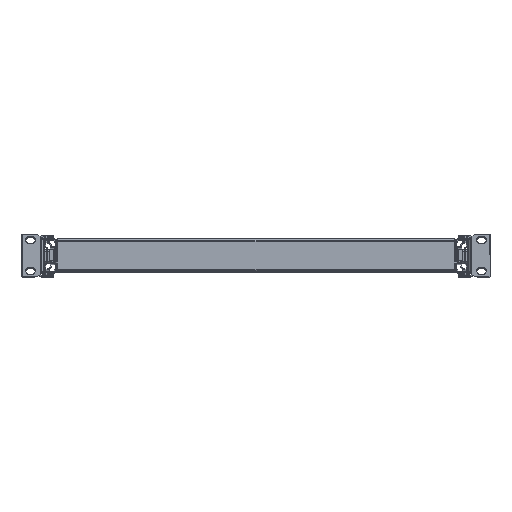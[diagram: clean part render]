
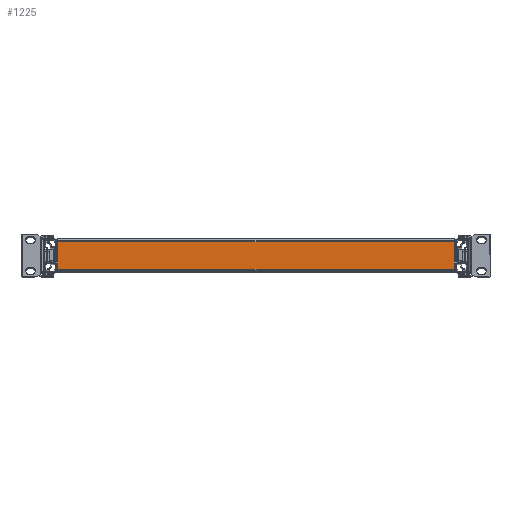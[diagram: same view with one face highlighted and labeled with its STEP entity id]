
A CAD part, top view. The second image highlights one B-rep face of the part: STEP entity #1225.
In plain terms, the highlighted planar face has unit normal (0, 0, 1).
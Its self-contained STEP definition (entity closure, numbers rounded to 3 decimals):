
#1225 = ADVANCED_FACE ( 'NONE', ( #24108 ), #20720, .T. ) ;
#1254 = CARTESIAN_POINT ( 'NONE',  ( -204.3, -29.7, 275. ) ) ;
#7952 = VECTOR ( 'NONE', #30875, 1000. ) ;
#10141 = LINE ( 'NONE', #26133, #7952 ) ;
#11281 = DIRECTION ( 'NONE',  ( 0., -1., 0. ) ) ;
#11847 = LINE ( 'NONE', #17392, #44837 ) ;
#12706 = CARTESIAN_POINT ( 'NONE',  ( 204.3, -29.7, 275. ) ) ;
#13774 = CARTESIAN_POINT ( 'NONE',  ( -204.3, -1.5, 275. ) ) ;
#14572 = ORIENTED_EDGE ( 'NONE', *, *, #59097, .T. ) ;
#16132 = VERTEX_POINT ( 'NONE', #17555 ) ;
#16532 = EDGE_LOOP ( 'NONE', ( #51470, #21832, #49724, #14572 ) ) ;
#17392 = CARTESIAN_POINT ( 'NONE',  ( 204.3, -32.6, 275. ) ) ;
#17488 = EDGE_CURVE ( 'NONE', #55987, #52723, #56776, .T. ) ;
#17555 = CARTESIAN_POINT ( 'NONE',  ( 204.3, -1.5, 275. ) ) ;
#20691 = CARTESIAN_POINT ( 'NONE',  ( -204.3, -1.5, 275. ) ) ;
#20720 = PLANE ( 'NONE',  #58296 ) ;
#21832 = ORIENTED_EDGE ( 'NONE', *, *, #26651, .T. ) ;
#24108 = FACE_OUTER_BOUND ( 'NONE', #16532, .T. ) ;
#25134 = CARTESIAN_POINT ( 'NONE',  ( -207.2, 0., 275. ) ) ;
#26133 = CARTESIAN_POINT ( 'NONE',  ( -207.2, -1.5, 275. ) ) ;
#26651 = EDGE_CURVE ( 'NONE', #52723, #42462, #33894, .T. ) ;
#27487 = VECTOR ( 'NONE', #53020, 1000. ) ;
#30875 = DIRECTION ( 'NONE',  ( -1., 0., 0. ) ) ;
#32726 = DIRECTION ( 'NONE',  ( 0., 1., 0. ) ) ;
#33894 = LINE ( 'NONE', #39012, #27487 ) ;
#34568 = DIRECTION ( 'NONE',  ( 0., 0., 1. ) ) ;
#39012 = CARTESIAN_POINT ( 'NONE',  ( -204.3, -29.7, 275. ) ) ;
#39376 = DIRECTION ( 'NONE',  ( 0., -1., 0. ) ) ;
#41500 = EDGE_CURVE ( 'NONE', #42462, #16132, #11847, .T. ) ;
#42462 = VERTEX_POINT ( 'NONE', #12706 ) ;
#44837 = VECTOR ( 'NONE', #32726, 1000. ) ;
#48858 = VECTOR ( 'NONE', #11281, 1000. ) ;
#49724 = ORIENTED_EDGE ( 'NONE', *, *, #41500, .T. ) ;
#51470 = ORIENTED_EDGE ( 'NONE', *, *, #17488, .T. ) ;
#52723 = VERTEX_POINT ( 'NONE', #1254 ) ;
#53020 = DIRECTION ( 'NONE',  ( 1., 0., 0. ) ) ;
#55987 = VERTEX_POINT ( 'NONE', #13774 ) ;
#56776 = LINE ( 'NONE', #20691, #48858 ) ;
#58296 = AXIS2_PLACEMENT_3D ( 'NONE', #25134, #34568, #39376 ) ;
#59097 = EDGE_CURVE ( 'NONE', #16132, #55987, #10141, .T. ) ;
